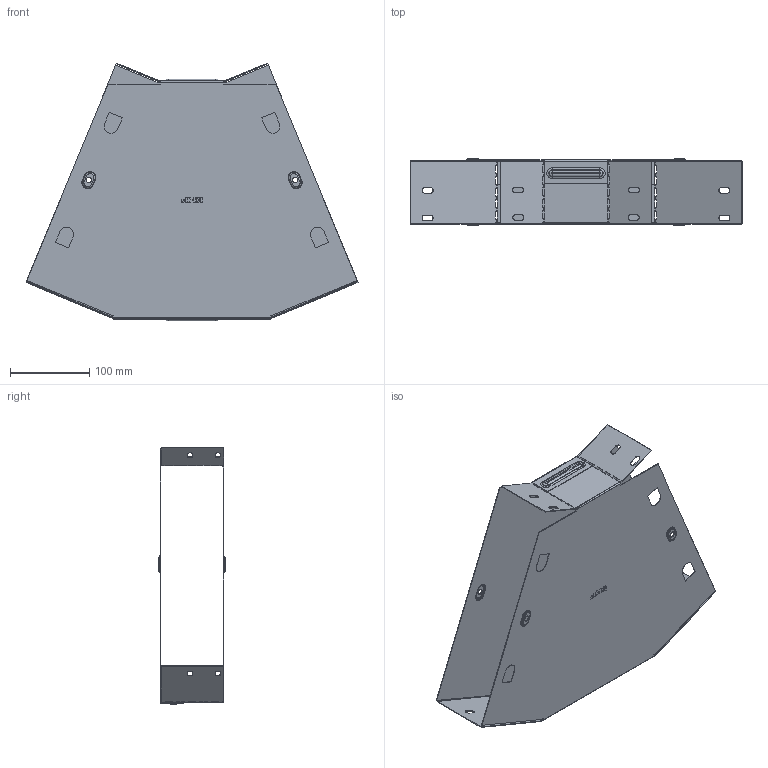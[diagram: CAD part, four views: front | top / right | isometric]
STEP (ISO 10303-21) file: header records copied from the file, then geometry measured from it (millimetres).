
FILE_DESCRIPTION (( 'STEP AP214' ), '1' );
FILE_NAME ('g4580300_捘.STEP', '2019-06-10T08:34:02', ( '砐錪賧瘔蠈錪 Windows' ), ( '' ), 'SwSTEP 2.0', 'SolidWorks 2018', '' );
FILE_SCHEMA (( 'AUTOMOTIVE_DESIGN' ));
Length unit declared in the file: millimetre
Products named in the file (1): g4580300_捘
Bounding box: 419.95 x 83.8 x 325.57 mm (x, y, z)
Volume: 194771 mm3; surface area: 490773.2 mm2
Topology: 2 solids, 2 shells, 578 faces, 1602 edges, 1016 vertices
Faces by surface type: plane 326, cylinder 170, torus 64, bspline 18
Entity records: 19374 total; most frequent: CARTESIAN_POINT 4216, ORIENTED_EDGE 3204, DIRECTION 3124, EDGE_CURVE 1602, LINE 1130, VECTOR 1130, VERTEX_POINT 1016, AXIS2_PLACEMENT_3D 997
